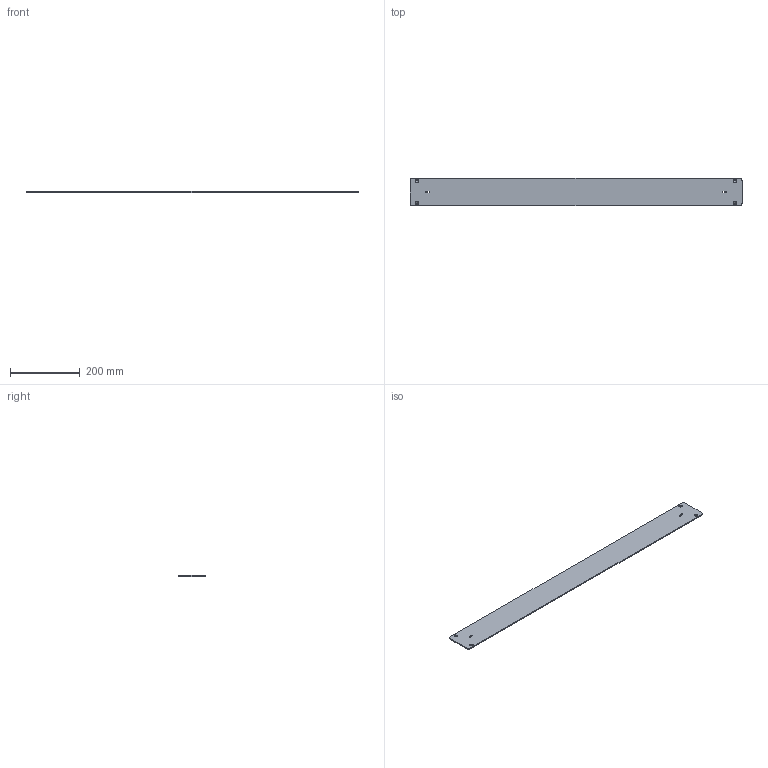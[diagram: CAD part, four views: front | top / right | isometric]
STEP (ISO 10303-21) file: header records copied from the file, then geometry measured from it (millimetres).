
FILE_DESCRIPTION(/* description */ ('Unknown'),/* implementation_level */ '2;1');
FILE_NAME(/* name */ '98773',/* time_stamp */ '2023-02-07T08:31:03-05:00',/* author */ ('Unknown'),/* organization */ ('Unknown'),/* preprocessor_version */ 'ST-DEVELOPER v18.1',/* originating_system */ 'Solid Edge',/* authorisation */ 'Unknown');
FILE_SCHEMA (('AUTOMOTIVE_DESIGN {1 0 10303 214 3 1 1}'));
Length unit declared in the file: millimetre
Products named in the file (1): LED-PIA044
Bounding box: 950 x 80 x 3 mm (x, y, z)
Volume: 227102.2 mm3; surface area: 157998.9 mm2
Topology: 1 solids, 1 shells, 26 faces, 72 edges, 48 vertices
Faces by surface type: cylinder 12, plane 10, cone 4
Full cylindrical faces by diameter (mm): 4.2 x4
Entity records: 822 total; most frequent: DIRECTION 142, CARTESIAN_POINT 131, ORIENTED_EDGE 120, EDGE_CURVE 60, AXIS2_PLACEMENT_3D 55, EDGE_LOOP 46, FACE_BOUND 46, VERTEX_POINT 44
